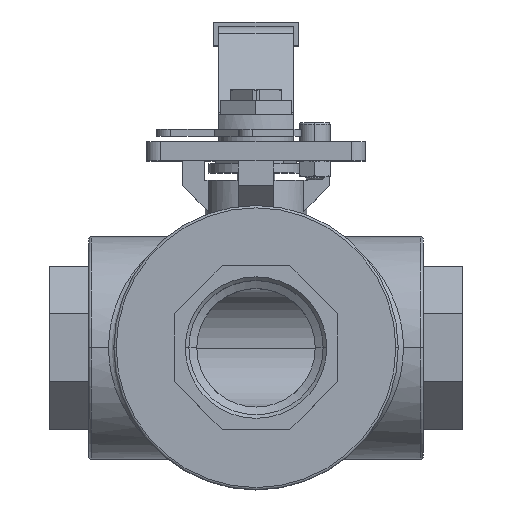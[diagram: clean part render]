
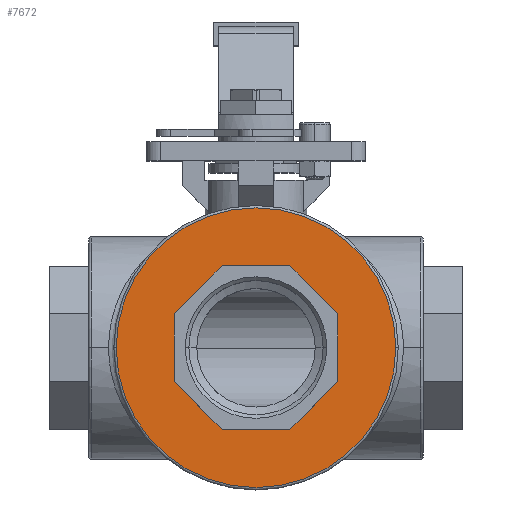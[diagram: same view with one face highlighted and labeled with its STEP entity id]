
A CAD part, top view. The second image highlights one B-rep face of the part: STEP entity #7672.
In plain terms, the highlighted planar face has unit normal (0, 0, 1).
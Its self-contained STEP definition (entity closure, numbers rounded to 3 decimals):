
#796 = EDGE_LOOP ( 'NONE', ( #6733, #6732 ) ) ;
#805 = EDGE_LOOP ( 'NONE', ( #6731, #6730, #6729, #6728, #6727, #6726, #6725, #6724 ) ) ;
#1069 = CIRCLE ( 'NONE', #1081, 59. ) ;
#1081 = AXIS2_PLACEMENT_3D ( 'NONE', #3212, #3213, #3214 ) ;
#1919 = CARTESIAN_POINT ( 'NONE',  ( 0., 0., 70. ) ) ;
#1920 = DIRECTION ( 'NONE',  ( 0., 0., 1. ) ) ;
#1921 = DIRECTION ( 'NONE',  ( 1., 0., 0. ) ) ;
#1922 = LINE ( 'NONE', #1929, #6475 ) ;
#1929 = CARTESIAN_POINT ( 'NONE',  ( 14.29, 34.5, 70. ) ) ;
#1931 = DIRECTION ( 'NONE',  ( -1., 0., 0. ) ) ;
#2005 = LINE ( 'NONE', #2016, #6479 ) ;
#2006 = LINE ( 'NONE', #2019, #6483 ) ;
#2012 = LINE ( 'NONE', #2014, #6482 ) ;
#2013 = LINE ( 'NONE', #2022, #6484 ) ;
#2014 = CARTESIAN_POINT ( 'NONE',  ( 34.5, 14.29, 70. ) ) ;
#2015 = DIRECTION ( 'NONE',  ( -0.707, 0.707, 0. ) ) ;
#2016 = CARTESIAN_POINT ( 'NONE',  ( 34.5, -14.29, 70. ) ) ;
#2017 = LINE ( 'NONE', #2025, #6485 ) ;
#2018 = DIRECTION ( 'NONE',  ( 0., 1., 0. ) ) ;
#2019 = CARTESIAN_POINT ( 'NONE',  ( 14.29, -34.5, 70. ) ) ;
#2020 = LINE ( 'NONE', #2027, #6486 ) ;
#2021 = DIRECTION ( 'NONE',  ( 0.707, 0.707, 0. ) ) ;
#2022 = CARTESIAN_POINT ( 'NONE',  ( -14.29, -34.5, 70. ) ) ;
#2023 = LINE ( 'NONE', #2029, #6487 ) ;
#2024 = DIRECTION ( 'NONE',  ( 1., 0., 0. ) ) ;
#2025 = CARTESIAN_POINT ( 'NONE',  ( -34.5, -14.29, 70. ) ) ;
#2026 = DIRECTION ( 'NONE',  ( 0.707, -0.707, 0. ) ) ;
#2027 = CARTESIAN_POINT ( 'NONE',  ( -34.5, 14.29, 70. ) ) ;
#2028 = DIRECTION ( 'NONE',  ( 0., -1., 0. ) ) ;
#2029 = CARTESIAN_POINT ( 'NONE',  ( -14.29, 34.5, 70. ) ) ;
#2031 = DIRECTION ( 'NONE',  ( -0.707, -0.707, 0. ) ) ;
#2546 = AXIS2_PLACEMENT_3D ( 'NONE', #3516, #3513, #3521 ) ;
#3212 = CARTESIAN_POINT ( 'NONE',  ( 0., 0., 70. ) ) ;
#3213 = DIRECTION ( 'NONE',  ( 0., 0., 1. ) ) ;
#3214 = DIRECTION ( 'NONE',  ( 1., 0., 0. ) ) ;
#3511 = FACE_BOUND ( 'NONE', #805, .T. ) ;
#3513 = DIRECTION ( 'NONE',  ( 0., 0., 1. ) ) ;
#3516 = CARTESIAN_POINT ( 'NONE',  ( 0., 0., 70. ) ) ;
#3517 = FACE_OUTER_BOUND ( 'NONE', #796, .T. ) ;
#3519 = PLANE ( 'NONE',  #2546 ) ;
#3521 = DIRECTION ( 'NONE',  ( 1., 0., 0. ) ) ;
#5418 = CARTESIAN_POINT ( 'NONE',  ( 59., 0., 70. ) ) ;
#5420 = CARTESIAN_POINT ( 'NONE',  ( -59., 0., 70. ) ) ;
#5626 = CARTESIAN_POINT ( 'NONE',  ( 14.29, 34.5, 70. ) ) ;
#5627 = CARTESIAN_POINT ( 'NONE',  ( 14.29, -34.5, 70. ) ) ;
#5628 = CARTESIAN_POINT ( 'NONE',  ( -14.29, -34.5, 70. ) ) ;
#5629 = CARTESIAN_POINT ( 'NONE',  ( -14.29, 34.5, 70. ) ) ;
#5630 = CARTESIAN_POINT ( 'NONE',  ( 34.5, 14.29, 70. ) ) ;
#5631 = CARTESIAN_POINT ( 'NONE',  ( 34.5, -14.29, 70. ) ) ;
#5632 = CARTESIAN_POINT ( 'NONE',  ( -34.5, -14.29, 70. ) ) ;
#5633 = CARTESIAN_POINT ( 'NONE',  ( -34.5, 14.29, 70. ) ) ;
#6470 = CIRCLE ( 'NONE', #6474, 59. ) ;
#6474 = AXIS2_PLACEMENT_3D ( 'NONE', #1919, #1920, #1921 ) ;
#6475 = VECTOR ( 'NONE', #1931, 1000. ) ;
#6479 = VECTOR ( 'NONE', #2018, 1000. ) ;
#6482 = VECTOR ( 'NONE', #2015, 1000. ) ;
#6483 = VECTOR ( 'NONE', #2021, 1000. ) ;
#6484 = VECTOR ( 'NONE', #2024, 1000. ) ;
#6485 = VECTOR ( 'NONE', #2026, 1000. ) ;
#6486 = VECTOR ( 'NONE', #2028, 1000. ) ;
#6487 = VECTOR ( 'NONE', #2031, 1000. ) ;
#6724 = ORIENTED_EDGE ( 'NONE', *, *, #9336, .F. ) ;
#6725 = ORIENTED_EDGE ( 'NONE', *, *, #9335, .F. ) ;
#6726 = ORIENTED_EDGE ( 'NONE', *, *, #9334, .F. ) ;
#6727 = ORIENTED_EDGE ( 'NONE', *, *, #9333, .F. ) ;
#6728 = ORIENTED_EDGE ( 'NONE', *, *, #9332, .F. ) ;
#6729 = ORIENTED_EDGE ( 'NONE', *, *, #9331, .F. ) ;
#6730 = ORIENTED_EDGE ( 'NONE', *, *, #9330, .F. ) ;
#6731 = ORIENTED_EDGE ( 'NONE', *, *, #9325, .F. ) ;
#6732 = ORIENTED_EDGE ( 'NONE', *, *, #9322, .T. ) ;
#6733 = ORIENTED_EDGE ( 'NONE', *, *, #9559, .T. ) ;
#7672 = ADVANCED_FACE ( 'NONE', ( #3517, #3511 ), #3519, .T. ) ;
#9322 = EDGE_CURVE ( 'NONE', #9947, #9945, #6470, .T. ) ;
#9325 = EDGE_CURVE ( 'NONE', #10153, #10156, #1922, .T. ) ;
#9330 = EDGE_CURVE ( 'NONE', #10157, #10153, #2012, .T. ) ;
#9331 = EDGE_CURVE ( 'NONE', #10158, #10157, #2005, .T. ) ;
#9332 = EDGE_CURVE ( 'NONE', #10154, #10158, #2006, .T. ) ;
#9333 = EDGE_CURVE ( 'NONE', #10155, #10154, #2013, .T. ) ;
#9334 = EDGE_CURVE ( 'NONE', #10159, #10155, #2017, .T. ) ;
#9335 = EDGE_CURVE ( 'NONE', #10160, #10159, #2020, .T. ) ;
#9336 = EDGE_CURVE ( 'NONE', #10156, #10160, #2023, .T. ) ;
#9559 = EDGE_CURVE ( 'NONE', #9945, #9947, #1069, .T. ) ;
#9945 = VERTEX_POINT ( 'NONE', #5418 ) ;
#9947 = VERTEX_POINT ( 'NONE', #5420 ) ;
#10153 = VERTEX_POINT ( 'NONE', #5626 ) ;
#10154 = VERTEX_POINT ( 'NONE', #5627 ) ;
#10155 = VERTEX_POINT ( 'NONE', #5628 ) ;
#10156 = VERTEX_POINT ( 'NONE', #5629 ) ;
#10157 = VERTEX_POINT ( 'NONE', #5630 ) ;
#10158 = VERTEX_POINT ( 'NONE', #5631 ) ;
#10159 = VERTEX_POINT ( 'NONE', #5632 ) ;
#10160 = VERTEX_POINT ( 'NONE', #5633 ) ;
